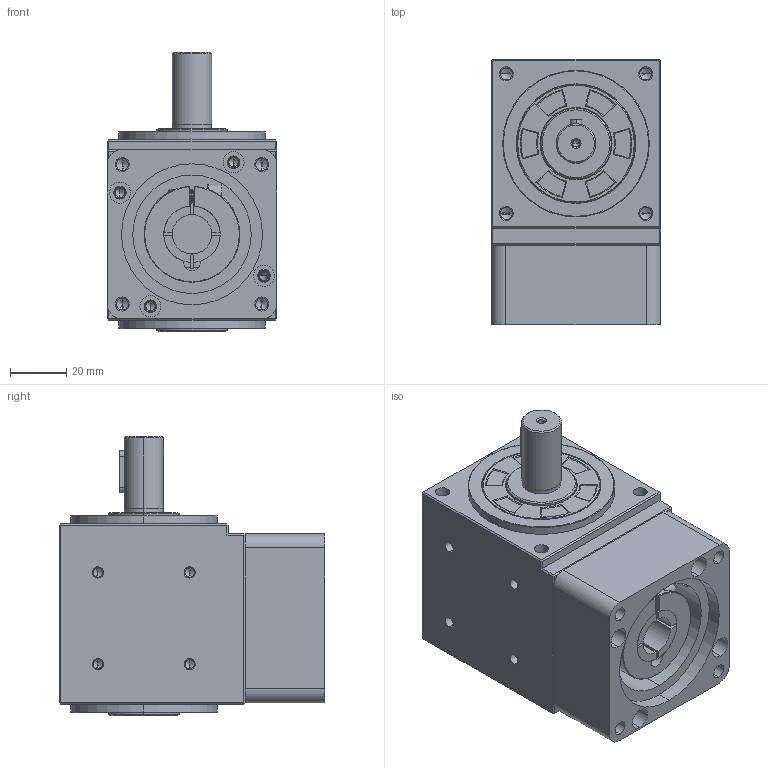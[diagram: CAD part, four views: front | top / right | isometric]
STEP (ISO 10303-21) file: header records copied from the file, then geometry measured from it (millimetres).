
FILE_DESCRIPTION (( 'STEP AP214' ), '1' );
FILE_NAME ('RS60-5(14-50-70-M5).STEP', '2020-10-27T06:29:20', ( '' ), ( '' ), 'SwSTEP 2.0', 'SolidWorks 2016', '' );
FILE_SCHEMA (( 'AUTOMOTIVE_DESIGN' ));
Length unit declared in the file: millimetre
Products named in the file (8): R60; R60-25x47x5; RS60-(14x27-4x15); RS60-5(14-50-70-M5); R60-25x42x5; SN60-34x20x10.5-M5; R60-5-(14); R60-5(50-70-M5)
Assembly tree (7 placements, depth 2):
  RS60-5(14-50-70-M5)
    R60
    R60-25x42x5
    R60-25x47x5
    R60-5(50-70-M5)
    RS60-(14x27-4x15)
    R60-5-(14)
    SN60-34x20x10.5-M5
Bounding box: 60 x 94.2 x 99 mm (x, y, z)
Volume: 246075.9 mm3; surface area: 80000.2 mm2
Topology: 8 solids, 8 shells, 642 faces, 1542 edges, 917 vertices
Faces by surface type: cylinder 306, cone 135, plane 124, torus 48, bspline 29
Entity records: 37484 total; most frequent: CARTESIAN_POINT 22344, DIRECTION 2993, ORIENTED_EDGE 2968, EDGE_CURVE 1484, AXIS2_PLACEMENT_3D 1181, VERTEX_POINT 917, EDGE_LOOP 729, ADVANCED_FACE 642
